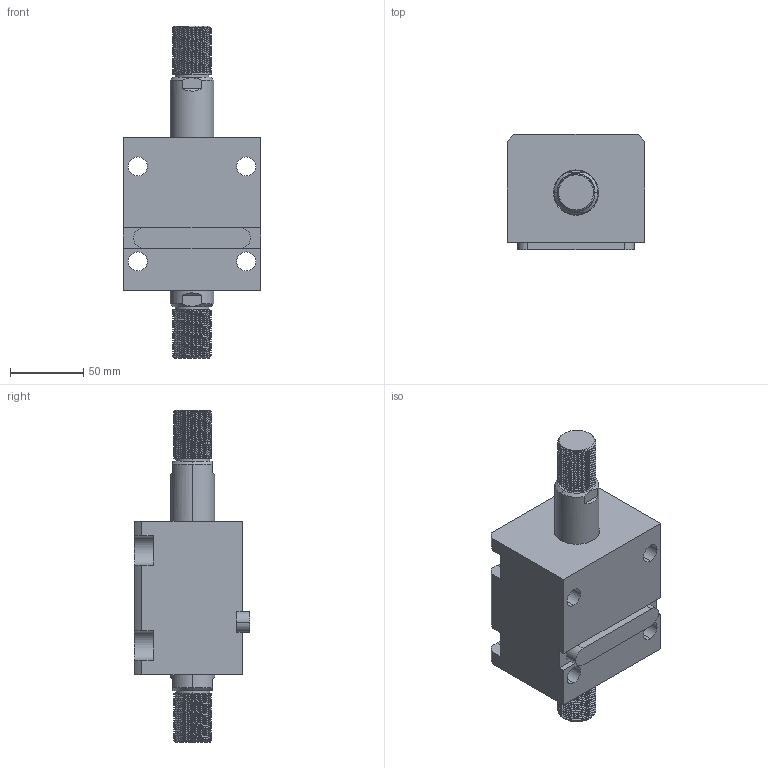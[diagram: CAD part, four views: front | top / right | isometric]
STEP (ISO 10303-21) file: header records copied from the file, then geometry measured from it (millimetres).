
FILE_DESCRIPTION (( 'STEP AP203' ), '1' );
FILE_NAME ('CHTB-LW50-30W.STEP', '2018-05-18T02:36:44', ( '' ), ( '' ), 'SwSTEP 2.0', 'SolidWorks 2015', '' );
FILE_SCHEMA (( 'CONFIG_CONTROL_DESIGN' ));
Length unit declared in the file: millimetre
Products named in the file (4): 活塞杆LW50-30W; CHTM-SDMA50QG; 掛极LW50-30W; CHTB-LW50-30W
Assembly tree (3 placements, depth 2):
  CHTB-LW50-30W
    掛极LW50-30W
    活塞杆LW50-30W
    CHTM-SDMA50QG
Bounding box: 94 x 79 x 227 mm (x, y, z)
Volume: 709028.2 mm3; surface area: 120404.9 mm2
Topology: 3 solids, 3 shells, 310 faces, 854 edges, 568 vertices
Faces by surface type: cylinder 186, plane 63, cone 27, bspline 18, torus 16
Entity records: 19510 total; most frequent: CARTESIAN_POINT 11940, ORIENTED_EDGE 1700, DIRECTION 1310, EDGE_CURVE 850, VERTEX_POINT 568, AXIS2_PLACEMENT_3D 503, EDGE_LOOP 348, ADVANCED_FACE 310
